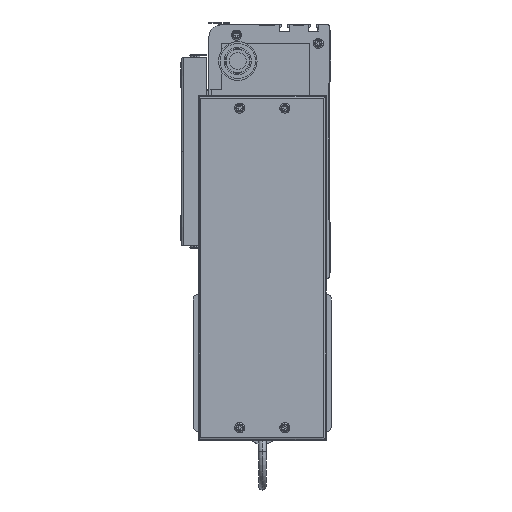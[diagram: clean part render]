
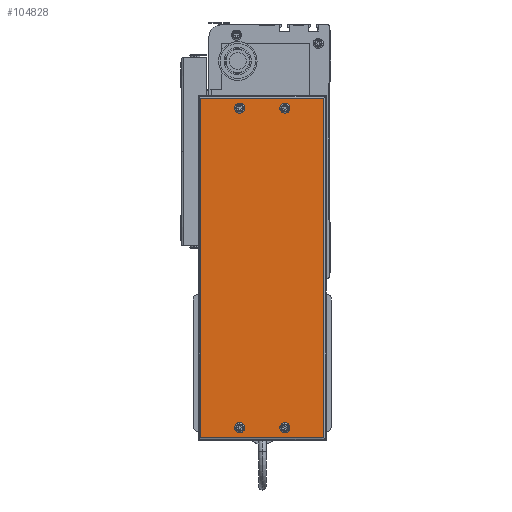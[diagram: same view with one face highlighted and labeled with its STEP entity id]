
A CAD part, left-side view. The second image highlights one B-rep face of the part: STEP entity #104828.
In plain terms, the highlighted planar face has unit normal (-1, 0, 0) as drawn and (1, 0, 0) by its records, which use the part's own axes.
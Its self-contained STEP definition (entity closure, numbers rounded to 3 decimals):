
#17425 = CARTESIAN_POINT ( 'NONE',  ( 50., 10., -30.5 ) ) ;
#18054 = CARTESIAN_POINT ( 'NONE',  ( 50., 10., -66.5 ) ) ;
#18056 = CARTESIAN_POINT ( 'NONE',  ( 50., 10., -69. ) ) ;
#18059 = DIRECTION ( 'NONE',  ( 0., 0., -1. ) ) ;
#18060 = DIRECTION ( 'NONE',  ( 1., 0., 0. ) ) ;
#18061 = AXIS2_PLACEMENT_3D ( 'NONE', #18067, #18060, #18059 ) ;
#18062 = CIRCLE ( 'NONE', #18061, 2.5 ) ;
#18063 = CARTESIAN_POINT ( 'NONE',  ( 50., 10., -71.5 ) ) ;
#18064 = DIRECTION ( 'NONE',  ( 1., 0., 0. ) ) ;
#18067 = CARTESIAN_POINT ( 'NONE',  ( 50., 10., -33. ) ) ;
#18068 = CARTESIAN_POINT ( 'NONE',  ( 50., 10., -35.5 ) ) ;
#18112 = DIRECTION ( 'NONE',  ( 0., 0., -1. ) ) ;
#18113 = AXIS2_PLACEMENT_3D ( 'NONE', #18056, #18064, #18112 ) ;
#18114 = CIRCLE ( 'NONE', #18113, 2.5 ) ;
#18119 = CIRCLE ( 'NONE', #18132, 2.5 ) ;
#18120 = DIRECTION ( 'NONE',  ( 0., 0., 1. ) ) ;
#18121 = CARTESIAN_POINT ( 'NONE',  ( 50., 10., -69. ) ) ;
#18130 = VECTOR ( 'NONE', #18120, 1000. ) ;
#18131 = CARTESIAN_POINT ( 'NONE',  ( 50., 272., 0. ) ) ;
#18132 = AXIS2_PLACEMENT_3D ( 'NONE', #18121, #18175, #18174 ) ;
#18138 = LINE ( 'NONE', #18131, #18130 ) ;
#18142 = CARTESIAN_POINT ( 'NONE',  ( 50., 272., -100. ) ) ;
#18143 = FACE_BOUND ( 'NONE', #105130, .T. ) ;
#18144 = CARTESIAN_POINT ( 'NONE',  ( 50., 272., -2. ) ) ;
#18146 = DIRECTION ( 'NONE',  ( 0., 0., -1. ) ) ;
#18148 = FACE_BOUND ( 'NONE', #105009, .T. ) ;
#18151 = DIRECTION ( 'NONE',  ( 0., 1., 0. ) ) ;
#18152 = VECTOR ( 'NONE', #18151, 1000. ) ;
#18153 = CARTESIAN_POINT ( 'NONE',  ( 50., 274., -100. ) ) ;
#18161 = VECTOR ( 'NONE', #18146, 1000. ) ;
#18164 = LINE ( 'NONE', #18153, #18152 ) ;
#18168 = CARTESIAN_POINT ( 'NONE',  ( 50., 2., 0. ) ) ;
#18169 = LINE ( 'NONE', #18168, #18161 ) ;
#18174 = DIRECTION ( 'NONE',  ( 0., 0., -1. ) ) ;
#18175 = DIRECTION ( 'NONE',  ( 1., 0., 0. ) ) ;
#18190 = DIRECTION ( 'NONE',  ( 0., 0., 1. ) ) ;
#18191 = DIRECTION ( 'NONE',  ( -1., 0., 0. ) ) ;
#18192 = CARTESIAN_POINT ( 'NONE',  ( 50., 274., 0. ) ) ;
#18199 = FACE_OUTER_BOUND ( 'NONE', #105098, .T. ) ;
#18201 = FACE_BOUND ( 'NONE', #104839, .T. ) ;
#18203 = FACE_BOUND ( 'NONE', #104819, .T. ) ;
#18208 = PLANE ( 'NONE',  #18210 ) ;
#18210 = AXIS2_PLACEMENT_3D ( 'NONE', #18192, #18191, #18190 ) ;
#18215 = CARTESIAN_POINT ( 'NONE',  ( 50., 2., -2. ) ) ;
#18277 = CARTESIAN_POINT ( 'NONE',  ( 50., 264., -35.5 ) ) ;
#18308 = CIRCLE ( 'NONE', #18364, 2.5 ) ;
#18318 = CARTESIAN_POINT ( 'NONE',  ( 50., 10., -33. ) ) ;
#18328 = DIRECTION ( 'NONE',  ( 0., 0., -1. ) ) ;
#18329 = DIRECTION ( 'NONE',  ( 1., 0., 0. ) ) ;
#18330 = CARTESIAN_POINT ( 'NONE',  ( 50., 264., -33. ) ) ;
#18331 = AXIS2_PLACEMENT_3D ( 'NONE', #18330, #18329, #18328 ) ;
#18332 = CIRCLE ( 'NONE', #18331, 2.5 ) ;
#18357 = DIRECTION ( 'NONE',  ( 0., 0., -1. ) ) ;
#18358 = DIRECTION ( 'NONE',  ( 1., 0., 0. ) ) ;
#18364 = AXIS2_PLACEMENT_3D ( 'NONE', #18318, #18358, #18357 ) ;
#18369 = CARTESIAN_POINT ( 'NONE',  ( 50., 264., -66.5 ) ) ;
#18407 = CIRCLE ( 'NONE', #18408, 2.5 ) ;
#18408 = AXIS2_PLACEMENT_3D ( 'NONE', #18461, #18460, #18459 ) ;
#18413 = CARTESIAN_POINT ( 'NONE',  ( 50., 264., -71.5 ) ) ;
#18414 = CARTESIAN_POINT ( 'NONE',  ( 50., 264., -30.5 ) ) ;
#18439 = CARTESIAN_POINT ( 'NONE',  ( 50., 2., -100. ) ) ;
#18459 = DIRECTION ( 'NONE',  ( 0., 0., -1. ) ) ;
#18460 = DIRECTION ( 'NONE',  ( 1., 0., 0. ) ) ;
#18461 = CARTESIAN_POINT ( 'NONE',  ( 50., 264., -69. ) ) ;
#18463 = DIRECTION ( 'NONE',  ( 0., 0., -1. ) ) ;
#18466 = DIRECTION ( 'NONE',  ( 0., 0., -1. ) ) ;
#18467 = DIRECTION ( 'NONE',  ( 1., 0., 0. ) ) ;
#18468 = CARTESIAN_POINT ( 'NONE',  ( 50., 264., -69. ) ) ;
#18469 = DIRECTION ( 'NONE',  ( 1., 0., 0. ) ) ;
#18472 = CIRCLE ( 'NONE', #18483, 2.5 ) ;
#18476 = CARTESIAN_POINT ( 'NONE',  ( 50., 264., -33. ) ) ;
#18479 = AXIS2_PLACEMENT_3D ( 'NONE', #18468, #18467, #18466 ) ;
#18482 = CIRCLE ( 'NONE', #18479, 2.5 ) ;
#18483 = AXIS2_PLACEMENT_3D ( 'NONE', #18476, #18469, #18463 ) ;
#18538 = DIRECTION ( 'NONE',  ( 0., -1., 0. ) ) ;
#18539 = VECTOR ( 'NONE', #18538, 1000. ) ;
#18540 = CARTESIAN_POINT ( 'NONE',  ( 50., 274., -2. ) ) ;
#18541 = LINE ( 'NONE', #18540, #18539 ) ;
#104070 = VERTEX_POINT ( 'NONE', #17425 ) ;
#104694 = VERTEX_POINT ( 'NONE', #18068 ) ;
#104699 = EDGE_CURVE ( 'NONE', #104070, #104694, #18062, .T. ) ;
#104713 = VERTEX_POINT ( 'NONE', #18063 ) ;
#104717 = EDGE_CURVE ( 'NONE', #104719, #104713, #18114, .T. ) ;
#104719 = VERTEX_POINT ( 'NONE', #18054 ) ;
#104754 = ORIENTED_EDGE ( 'NONE', *, *, #104796, .T. ) ;
#104758 = EDGE_CURVE ( 'NONE', #104773, #104811, #18138, .T. ) ;
#104762 = EDGE_CURVE ( 'NONE', #104713, #104719, #18119, .T. ) ;
#104765 = ORIENTED_EDGE ( 'NONE', *, *, #104758, .T. ) ;
#104773 = VERTEX_POINT ( 'NONE', #18142 ) ;
#104796 = EDGE_CURVE ( 'NONE', #105103, #104773, #18164, .T. ) ;
#104806 = EDGE_CURVE ( 'NONE', #104827, #105103, #18169, .T. ) ;
#104811 = VERTEX_POINT ( 'NONE', #18144 ) ;
#104815 = ORIENTED_EDGE ( 'NONE', *, *, #104806, .T. ) ;
#104817 = ORIENTED_EDGE ( 'NONE', *, *, #105237, .T. ) ;
#104819 = EDGE_LOOP ( 'NONE', ( #104831, #105216 ) ) ;
#104827 = VERTEX_POINT ( 'NONE', #18215 ) ;
#104828 = ADVANCED_FACE ( 'NONE', ( #18199, #18203, #18201, #18148, #18143 ), #18208, .F. ) ;
#104831 = ORIENTED_EDGE ( 'NONE', *, *, #104762, .F. ) ;
#104838 = ORIENTED_EDGE ( 'NONE', *, *, #105142, .F. ) ;
#104839 = EDGE_LOOP ( 'NONE', ( #105005, #105140 ) ) ;
#104844 = ORIENTED_EDGE ( 'NONE', *, *, #104966, .F. ) ;
#104869 = ORIENTED_EDGE ( 'NONE', *, *, #105147, .F. ) ;
#104956 = VERTEX_POINT ( 'NONE', #18277 ) ;
#104966 = EDGE_CURVE ( 'NONE', #105071, #104956, #18332, .T. ) ;
#105005 = ORIENTED_EDGE ( 'NONE', *, *, #105007, .F. ) ;
#105007 = EDGE_CURVE ( 'NONE', #104694, #104070, #18308, .T. ) ;
#105009 = EDGE_LOOP ( 'NONE', ( #104838, #105121 ) ) ;
#105071 = VERTEX_POINT ( 'NONE', #18414 ) ;
#105075 = VERTEX_POINT ( 'NONE', #18369 ) ;
#105077 = VERTEX_POINT ( 'NONE', #18413 ) ;
#105082 = EDGE_CURVE ( 'NONE', #105075, #105077, #18407, .T. ) ;
#105098 = EDGE_LOOP ( 'NONE', ( #104817, #104815, #104754, #104765 ) ) ;
#105103 = VERTEX_POINT ( 'NONE', #18439 ) ;
#105121 = ORIENTED_EDGE ( 'NONE', *, *, #105082, .F. ) ;
#105130 = EDGE_LOOP ( 'NONE', ( #104869, #104844 ) ) ;
#105140 = ORIENTED_EDGE ( 'NONE', *, *, #104699, .F. ) ;
#105142 = EDGE_CURVE ( 'NONE', #105077, #105075, #18482, .T. ) ;
#105147 = EDGE_CURVE ( 'NONE', #104956, #105071, #18472, .T. ) ;
#105216 = ORIENTED_EDGE ( 'NONE', *, *, #104717, .F. ) ;
#105237 = EDGE_CURVE ( 'NONE', #104811, #104827, #18541, .T. ) ;
